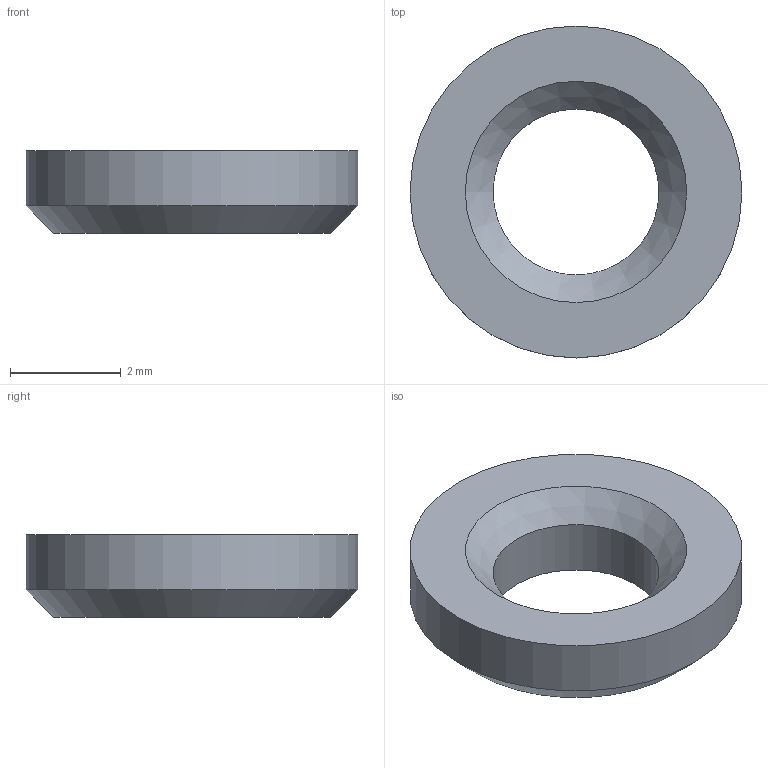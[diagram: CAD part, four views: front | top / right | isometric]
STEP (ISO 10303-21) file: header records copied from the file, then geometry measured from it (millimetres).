
FILE_DESCRIPTION(/* description */ (''),/* implementation_level */ '2;1');
FILE_NAME(/* name */ 'D:\STEP files\pin-holder end.stp',/* time_stamp */ '2020-08-13T23:48:17+02:00',/* author */ ('Vít Budina'),/* organization */ (''),/* preprocessor_version */ 'ST-DEVELOPER v18',/* originating_system */ 'Autodesk Inventor 2020',/* authorisation */ '');
FILE_SCHEMA (('AUTOMOTIVE_DESIGN { 1 0 10303 214 3 1 1 }'));
Length unit declared in the file: millimetre
Products named in the file (1): pin-holder end
Bounding box: 6 x 6 x 1.5 mm (x, y, z)
Volume: 28.3 mm3; surface area: 76.5 mm2
Topology: 1 solids, 1 shells, 6 faces, 12 edges, 8 vertices
Faces by surface type: cone 2, cylinder 2, plane 2
Full cylindrical faces by diameter (mm): 3 x1, 6 x1
Entity records: 209 total; most frequent: DIRECTION 34, CARTESIAN_POINT 27, ORIENTED_EDGE 24, AXIS2_PLACEMENT_3D 15, EDGE_CURVE 12, EDGE_LOOP 8, CIRCLE 8, VERTEX_POINT 8
